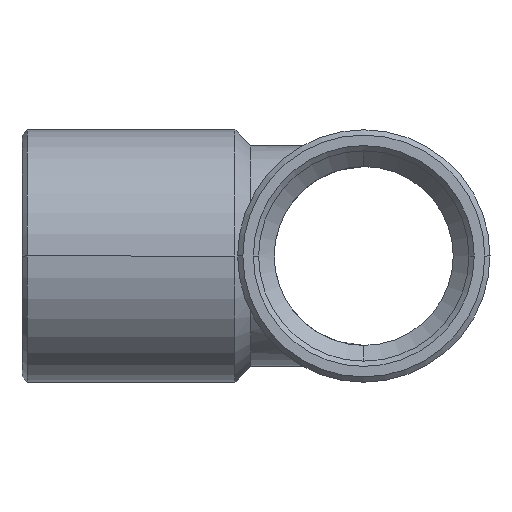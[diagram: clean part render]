
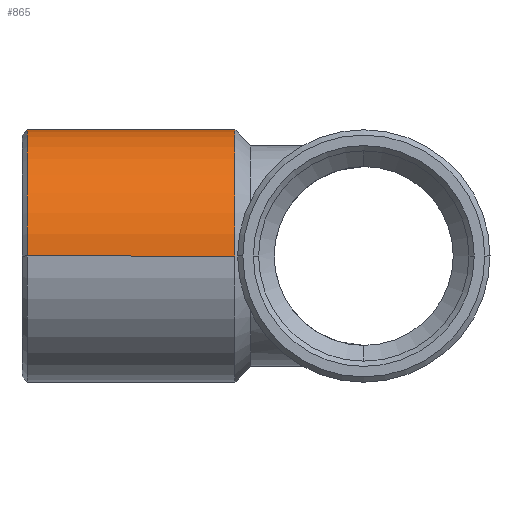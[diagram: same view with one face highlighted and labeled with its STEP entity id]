
A CAD part, left-side view. The second image highlights one B-rep face of the part: STEP entity #865.
In plain terms, the highlighted cylindrical face has radius 4.8 mm (diameter 9.6 mm), a partial arc.
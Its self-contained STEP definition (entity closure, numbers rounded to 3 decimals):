
#179=CARTESIAN_POINT('',(4.8,4.9,0.));
#180=VERTEX_POINT('',#179);
#188=CARTESIAN_POINT('',(0.,4.9,4.8));
#189=VERTEX_POINT('',#188);
#190=CARTESIAN_POINT('',(0.,4.9,0.0));
#191=DIRECTION('',(0.0,1.0,0.0));
#192=DIRECTION('',(-1.0,0.0,0.0));
#193=AXIS2_PLACEMENT_3D('',#190,#191,#192);
#194=CIRCLE('',#193,4.8);
#195=EDGE_CURVE('',#189,#180,#194,.T.);
#825=CARTESIAN_POINT('',(0.,8.95,0.0));
#826=DIRECTION('',(0.,1.0,0.0));
#827=DIRECTION('',(-1.0,0.0,0.0));
#828=AXIS2_PLACEMENT_3D('',#825,#826,#827);
#829=CYLINDRICAL_SURFACE('',#828,4.8);
#830=CARTESIAN_POINT('',(-4.8,4.9,0.0));
#831=VERTEX_POINT('',#830);
#832=CARTESIAN_POINT('',(-4.8,12.8,0.));
#833=VERTEX_POINT('',#832);
#834=CARTESIAN_POINT('',(-4.8,4.9,0.0));
#835=DIRECTION('',(0.0,1.0,0.0));
#836=VECTOR('',#835,7.9);
#837=LINE('',#834,#836);
#838=EDGE_CURVE('',#831,#833,#837,.T.);
#839=ORIENTED_EDGE('',*,*,#838,.F.);
#840=CARTESIAN_POINT('',(0.,4.9,0.0));
#841=DIRECTION('',(0.0,1.0,0.0));
#842=DIRECTION('',(-1.0,0.0,0.0));
#843=AXIS2_PLACEMENT_3D('',#840,#841,#842);
#844=CIRCLE('',#843,4.8);
#845=EDGE_CURVE('',#831,#189,#844,.T.);
#846=ORIENTED_EDGE('',*,*,#845,.T.);
#847=ORIENTED_EDGE('',*,*,#195,.T.);
#848=CARTESIAN_POINT('',(4.8,12.8,0.));
#849=VERTEX_POINT('',#848);
#850=CARTESIAN_POINT('',(4.8,12.8,0.));
#851=DIRECTION('',(0.0,-1.0,0.0));
#852=VECTOR('',#851,7.9);
#853=LINE('',#850,#852);
#854=EDGE_CURVE('',#849,#180,#853,.T.);
#855=ORIENTED_EDGE('',*,*,#854,.F.);
#856=CARTESIAN_POINT('',(0.,12.8,0.0));
#857=DIRECTION('',(0.0,1.0,0.0));
#858=DIRECTION('',(1.0,0.0,0.0));
#859=AXIS2_PLACEMENT_3D('',#856,#857,#858);
#860=CIRCLE('',#859,4.8);
#861=EDGE_CURVE('',#833,#849,#860,.T.);
#862=ORIENTED_EDGE('',*,*,#861,.F.);
#863=EDGE_LOOP('',(#839,#846,#847,#855,#862));
#864=FACE_OUTER_BOUND('',#863,.T.);
#865=ADVANCED_FACE('',(#864),#829,.T.);
